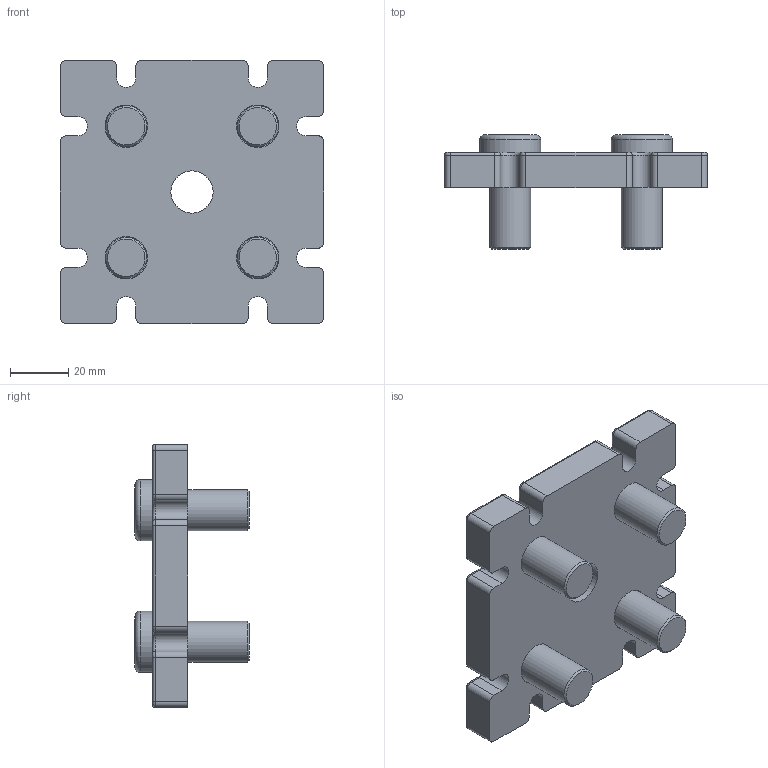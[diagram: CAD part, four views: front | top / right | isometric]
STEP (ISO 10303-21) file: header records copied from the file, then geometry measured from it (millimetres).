
FILE_DESCRIPTION(/* description */ ('Piastra profilo 90x90 per piedino M16 con viti'),/* implementation_level */ '2;1');
FILE_NAME(/* name */ 'C:\Users\Stefan.Nesic\Desktop\01010STEP\MPB90-90M16.stp',/* time_stamp */ '2022-06-17T14:53:14+02:00',/* author */ ('USER'),/* organization */ ('Microsoft'),/* preprocessor_version */ 'ST-DEVELOPER v18.1',/* originating_system */ 'Autodesk Inventor 2021',/* authorisation */ '');
FILE_SCHEMA (('AUTOMOTIVE_DESIGN { 1 0 10303 214 3 1 1 }'));
Length unit declared in the file: millimetre
Products named in the file (1): MPB90-90M16
Bounding box: 90 x 39 x 90 mm (x, y, z)
Surface area: 32556 mm2 (no closed solid volume)
Topology: 0 solids, 9 shells, 199 faces, 483 edges, 292 vertices
Faces by surface type: plane 86, cylinder 73, bspline 20, torus 12, cone 8
Full cylindrical faces by diameter (mm): 14 x4, 14.5 x5, 21 x4, 22.5 x4
Entity records: 6199 total; most frequent: CARTESIAN_POINT 1435, DIRECTION 1045, ORIENTED_EDGE 938, EDGE_CURVE 477, AXIS2_PLACEMENT_3D 392, VERTEX_POINT 292, LINE 261, VECTOR 261
